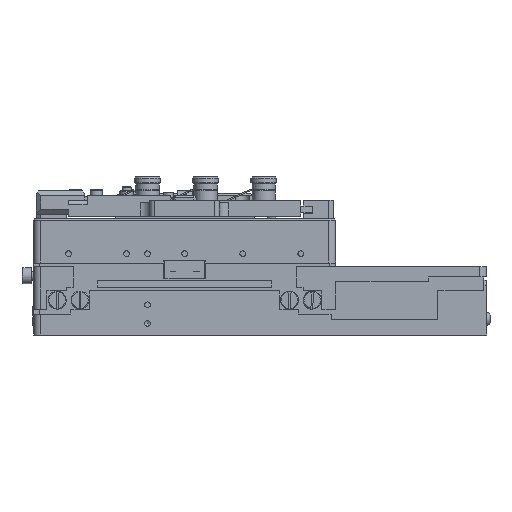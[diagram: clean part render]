
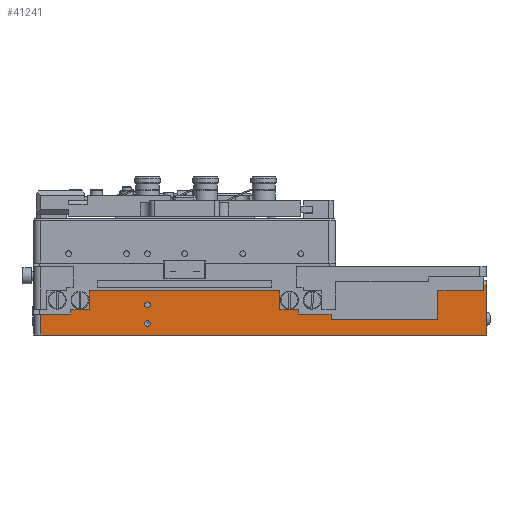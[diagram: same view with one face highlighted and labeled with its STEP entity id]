
A CAD part, left-side view. The second image highlights one B-rep face of the part: STEP entity #41241.
In plain terms, the highlighted planar face has unit normal (-1, 0, 0).
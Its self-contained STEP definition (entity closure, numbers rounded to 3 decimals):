
#2291=LINE($,#64878,#5580);
#2298=LINE($,#64898,#5587);
#2299=LINE($,#64899,#5588);
#2300=LINE($,#64901,#5589);
#2301=LINE($,#64903,#5590);
#2302=LINE($,#64905,#5591);
#2303=LINE($,#64907,#5592);
#2304=LINE($,#64909,#5593);
#2305=LINE($,#64911,#5594);
#2306=LINE($,#64913,#5595);
#2307=LINE($,#64915,#5596);
#2308=LINE($,#64917,#5597);
#2309=LINE($,#64919,#5598);
#2310=LINE($,#64921,#5599);
#2311=LINE($,#64923,#5600);
#2312=LINE($,#64925,#5601);
#2313=LINE($,#64927,#5602);
#2314=LINE($,#64929,#5603);
#2315=LINE($,#64931,#5604);
#2316=LINE($,#64932,#5605);
#5580=VECTOR($,#51064,3.);
#5587=VECTOR($,#51079,9.);
#5588=VECTOR($,#51080,192.);
#5589=VECTOR($,#51081,0.2);
#5590=VECTOR($,#51082,18.5);
#5591=VECTOR($,#51083,1.);
#5592=VECTOR($,#51084,2.5);
#5593=VECTOR($,#51085,19.8);
#5594=VECTOR($,#51086,12.5);
#5595=VECTOR($,#51087,46.);
#5596=VECTOR($,#51088,2.5);
#5597=VECTOR($,#51089,14.);
#5598=VECTOR($,#51090,2.);
#5599=VECTOR($,#51091,8.);
#5600=VECTOR($,#51092,8.);
#5601=VECTOR($,#51093,82.);
#5602=VECTOR($,#51094,8.);
#5603=VECTOR($,#51095,8.);
#5604=VECTOR($,#51096,2.);
#5605=VECTOR($,#51097,13.);
#8190=PLANE($,#44204);
#9491=FACE_BOUND($,#13748,.T.);
#9492=FACE_BOUND($,#13749,.T.);
#9493=FACE_BOUND($,#13750,.T.);
#13748=EDGE_LOOP($,(#31184));
#13749=EDGE_LOOP($,(#31185));
#13750=EDGE_LOOP($,(#31186,#31187,#31188,#31189,#31190,#31191,#31192,#31193,
#31194,#31195,#31196,#31197,#31198,#31199,#31200,#31201,#31202,#31203,#31204,
#31205));
#16300=CIRCLE($,#44205,1.23);
#16301=CIRCLE($,#44206,1.23);
#18968=VERTEX_POINT($,#64875);
#18969=VERTEX_POINT($,#64877);
#18975=VERTEX_POINT($,#64892);
#18976=VERTEX_POINT($,#64894);
#18977=VERTEX_POINT($,#64896);
#18978=VERTEX_POINT($,#64897);
#18979=VERTEX_POINT($,#64900);
#18980=VERTEX_POINT($,#64902);
#18981=VERTEX_POINT($,#64904);
#18982=VERTEX_POINT($,#64906);
#18983=VERTEX_POINT($,#64908);
#18984=VERTEX_POINT($,#64910);
#18985=VERTEX_POINT($,#64912);
#18986=VERTEX_POINT($,#64914);
#18987=VERTEX_POINT($,#64916);
#18988=VERTEX_POINT($,#64918);
#18989=VERTEX_POINT($,#64920);
#18990=VERTEX_POINT($,#64922);
#18991=VERTEX_POINT($,#64924);
#18992=VERTEX_POINT($,#64926);
#18993=VERTEX_POINT($,#64928);
#18994=VERTEX_POINT($,#64930);
#23503=EDGE_CURVE($,#18969,#18968,#2291,.T.);
#23510=EDGE_CURVE($,#18975,#18975,#16300,.T.);
#23511=EDGE_CURVE($,#18976,#18976,#16301,.T.);
#23512=EDGE_CURVE($,#18977,#18978,#2298,.T.);
#23513=EDGE_CURVE($,#18977,#18969,#2299,.T.);
#23514=EDGE_CURVE($,#18968,#18979,#2300,.T.);
#23515=EDGE_CURVE($,#18980,#18979,#2301,.T.);
#23516=EDGE_CURVE($,#18981,#18980,#2302,.T.);
#23517=EDGE_CURVE($,#18982,#18981,#2303,.T.);
#23518=EDGE_CURVE($,#18983,#18982,#2304,.T.);
#23519=EDGE_CURVE($,#18983,#18984,#2305,.T.);
#23520=EDGE_CURVE($,#18984,#18985,#2306,.T.);
#23521=EDGE_CURVE($,#18985,#18986,#2307,.T.);
#23522=EDGE_CURVE($,#18986,#18987,#2308,.T.);
#23523=EDGE_CURVE($,#18987,#18988,#2309,.T.);
#23524=EDGE_CURVE($,#18988,#18989,#2310,.T.);
#23525=EDGE_CURVE($,#18989,#18990,#2311,.T.);
#23526=EDGE_CURVE($,#18991,#18990,#2312,.T.);
#23527=EDGE_CURVE($,#18991,#18992,#2313,.T.);
#23528=EDGE_CURVE($,#18992,#18993,#2314,.T.);
#23529=EDGE_CURVE($,#18993,#18994,#2315,.T.);
#23530=EDGE_CURVE($,#18994,#18978,#2316,.T.);
#31184=ORIENTED_EDGE($,*,*,#23510,.T.);
#31185=ORIENTED_EDGE($,*,*,#23511,.T.);
#31186=ORIENTED_EDGE($,*,*,#23512,.F.);
#31187=ORIENTED_EDGE($,*,*,#23513,.T.);
#31188=ORIENTED_EDGE($,*,*,#23503,.T.);
#31189=ORIENTED_EDGE($,*,*,#23514,.T.);
#31190=ORIENTED_EDGE($,*,*,#23515,.F.);
#31191=ORIENTED_EDGE($,*,*,#23516,.F.);
#31192=ORIENTED_EDGE($,*,*,#23517,.F.);
#31193=ORIENTED_EDGE($,*,*,#23518,.F.);
#31194=ORIENTED_EDGE($,*,*,#23519,.T.);
#31195=ORIENTED_EDGE($,*,*,#23520,.T.);
#31196=ORIENTED_EDGE($,*,*,#23521,.T.);
#31197=ORIENTED_EDGE($,*,*,#23522,.T.);
#31198=ORIENTED_EDGE($,*,*,#23523,.T.);
#31199=ORIENTED_EDGE($,*,*,#23524,.T.);
#31200=ORIENTED_EDGE($,*,*,#23525,.T.);
#31201=ORIENTED_EDGE($,*,*,#23526,.F.);
#31202=ORIENTED_EDGE($,*,*,#23527,.T.);
#31203=ORIENTED_EDGE($,*,*,#23528,.T.);
#31204=ORIENTED_EDGE($,*,*,#23529,.T.);
#31205=ORIENTED_EDGE($,*,*,#23530,.T.);
#41241=ADVANCED_FACE($,(#9491,#9492,#9493),#8190,.T.);
#44204=AXIS2_PLACEMENT_3D($,#64891,#51073,#51074);
#44205=AXIS2_PLACEMENT_3D($,#64893,#51075,#51076);
#44206=AXIS2_PLACEMENT_3D($,#64895,#51077,#51078);
#51064=DIRECTION($,(0.,0.,1.));
#51073=DIRECTION('center_axis',(-1.,0.,0.));
#51074=DIRECTION('ref_axis',(0.,-1.,0.));
#51075=DIRECTION('center_axis',(1.,0.,0.));
#51076=DIRECTION('ref_axis',(0.,0.,1.));
#51077=DIRECTION('center_axis',(1.,0.,0.));
#51078=DIRECTION('ref_axis',(0.,0.,1.));
#51079=DIRECTION($,(0.,0.,1.));
#51080=DIRECTION($,(0.,-1.,0.));
#51081=DIRECTION($,(0.,1.,0.));
#51082=DIRECTION($,(0.,0.,-1.));
#51083=DIRECTION($,(0.,-1.,0.));
#51084=DIRECTION($,(0.,0.,1.));
#51085=DIRECTION($,(0.,-1.,0.));
#51086=DIRECTION($,(0.,0.,-1.));
#51087=DIRECTION($,(0.,1.,0.));
#51088=DIRECTION($,(0.,0.,1.));
#51089=DIRECTION($,(0.,1.,0.));
#51090=DIRECTION($,(0.,0.,1.));
#51091=DIRECTION($,(0.,1.,0.));
#51092=DIRECTION($,(0.,0.,1.));
#51093=DIRECTION($,(0.,-1.,0.));
#51094=DIRECTION($,(0.,0.,-1.));
#51095=DIRECTION($,(0.,1.,0.));
#51096=DIRECTION($,(0.,0.,-1.));
#51097=DIRECTION($,(0.,1.,0.));
#64875=CARTESIAN_POINT('',(-65.,-97.5,3.));
#64877=CARTESIAN_POINT('',(-65.,-97.5,0.));
#64878=CARTESIAN_POINT($,(-65.,-97.5,0.));
#64891=CARTESIAN_POINT('Origin',(-65.,97.5,0.));
#64892=CARTESIAN_POINT('',(-65.,48.5,6.23));
#64893=CARTESIAN_POINT('Origin',(-65.,48.5,5.));
#64894=CARTESIAN_POINT('',(-65.,48.5,14.23));
#64895=CARTESIAN_POINT('Origin',(-65.,48.5,13.));
#64896=CARTESIAN_POINT('',(-65.,94.5,0.));
#64897=CARTESIAN_POINT('',(-65.,94.5,9.));
#64898=CARTESIAN_POINT($,(-65.,94.5,0.));
#64899=CARTESIAN_POINT($,(-65.,97.5,0.));
#64900=CARTESIAN_POINT('',(-65.,-97.3,3.));
#64901=CARTESIAN_POINT($,(-65.,0.,3.));
#64902=CARTESIAN_POINT('',(-65.,-97.3,21.5));
#64903=CARTESIAN_POINT($,(-65.,-97.3,23.5));
#64904=CARTESIAN_POINT('',(-65.,-96.3,21.5));
#64905=CARTESIAN_POINT($,(-65.,-96.8,21.5));
#64906=CARTESIAN_POINT('',(-65.,-96.3,19.));
#64907=CARTESIAN_POINT($,(-65.,-96.3,23.5));
#64908=CARTESIAN_POINT('',(-65.,-76.5,19.));
#64909=CARTESIAN_POINT($,(-65.,97.5,19.));
#64910=CARTESIAN_POINT('',(-65.,-76.5,6.5));
#64911=CARTESIAN_POINT($,(-65.,-76.5,9.5));
#64912=CARTESIAN_POINT('',(-65.,-30.5,6.5));
#64913=CARTESIAN_POINT($,(-65.,10.5,6.5));
#64914=CARTESIAN_POINT('',(-65.,-30.5,9.));
#64915=CARTESIAN_POINT($,(-65.,-30.5,3.25));
#64916=CARTESIAN_POINT('',(-65.,-16.5,9.));
#64917=CARTESIAN_POINT($,(-65.,33.5,9.));
#64918=CARTESIAN_POINT('',(-65.,-16.5,11.));
#64919=CARTESIAN_POINT($,(-65.,-16.5,4.5));
#64920=CARTESIAN_POINT('',(-65.,-8.5,11.));
#64921=CARTESIAN_POINT($,(-65.,40.5,11.));
#64922=CARTESIAN_POINT('',(-65.,-8.5,19.));
#64923=CARTESIAN_POINT($,(-65.,-8.5,5.5));
#64924=CARTESIAN_POINT('',(-65.,73.5,19.));
#64925=CARTESIAN_POINT($,(-65.,97.5,19.));
#64926=CARTESIAN_POINT('',(-65.,73.5,11.));
#64927=CARTESIAN_POINT($,(-65.,73.5,9.5));
#64928=CARTESIAN_POINT('',(-65.,81.5,11.));
#64929=CARTESIAN_POINT($,(-65.,85.5,11.));
#64930=CARTESIAN_POINT('',(-65.,81.5,9.));
#64931=CARTESIAN_POINT($,(-65.,81.5,5.5));
#64932=CARTESIAN_POINT($,(-65.,89.5,9.));
